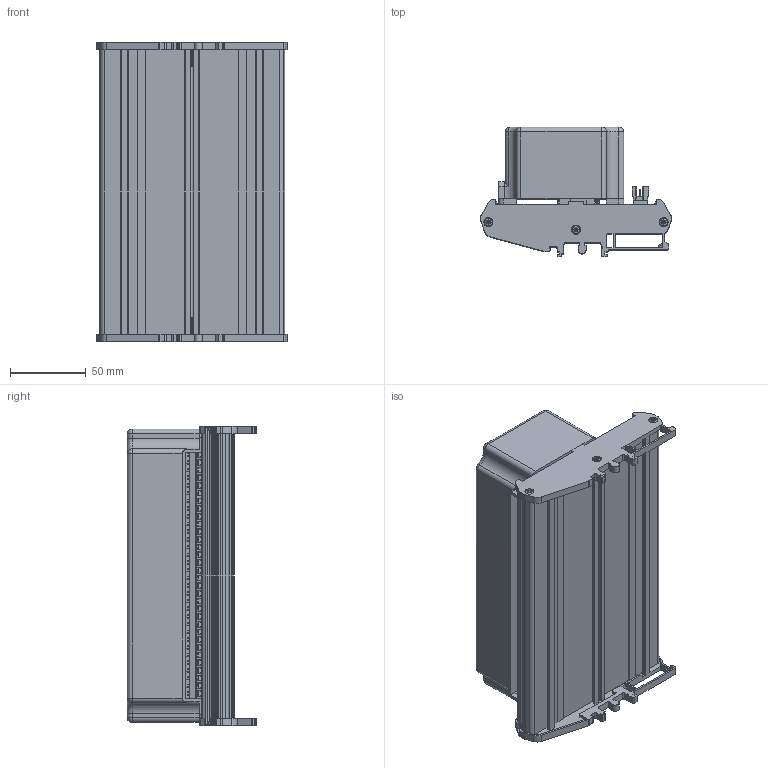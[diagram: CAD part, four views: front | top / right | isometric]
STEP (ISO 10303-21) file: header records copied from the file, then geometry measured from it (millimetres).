
FILE_DESCRIPTION((''),'2;1');
FILE_NAME('CU-TBX-1303','2008-09-24T',('chrisj'),(''),'PRO/ENGINEER BY PARAMETRIC TECHNOLOGY CORPORATION, 2006300','PRO/ENGINEER BY PARAMETRIC TECHNOLOGY CORPORATION, 2006300','');
FILE_SCHEMA(('AUTOMOTIVE_DESIGN_CC2 { 1 2 10303 214 -1 1 5 2 }'));
Products named in the file (1): CU-TBX-1303
Bounding box: 125.4 x 85.23 x 197.5 mm (x, y, z)
Volume: 299620.9 mm3; surface area: 241876.1 mm2
Topology: 2 solids, 5 shells, 5317 faces, 13581 edges, 8810 vertices
Faces by surface type: plane 3920, cylinder 1085, cone 236, sphere 52, torus 22, extrusion 2
Entity records: 163083 total; most frequent: CARTESIAN_POINT 32613, ORIENTED_EDGE 27058, DIRECTION 26492, EDGE_CURVE 13529, VECTOR 10374, LINE 10372, VERTEX_POINT 8810, AXIS2_PLACEMENT_3D 8059
